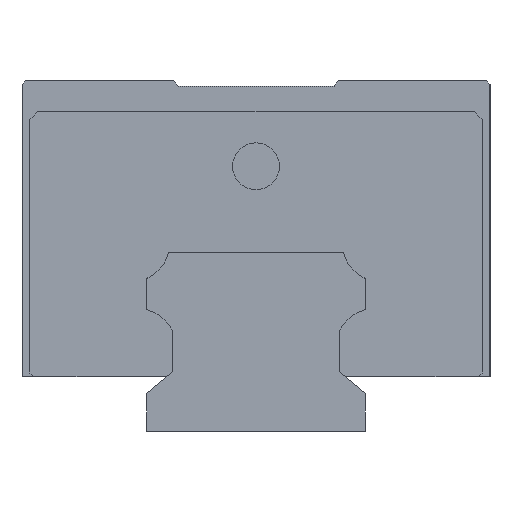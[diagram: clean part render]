
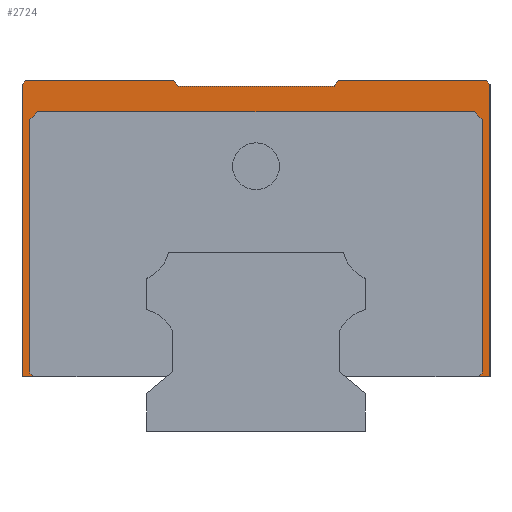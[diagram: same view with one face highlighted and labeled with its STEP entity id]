
A CAD part, left-side view. The second image highlights one B-rep face of the part: STEP entity #2724.
In plain terms, the highlighted planar face has unit normal (-1, 0, 0).
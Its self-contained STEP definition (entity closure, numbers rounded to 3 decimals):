
#24 = DIRECTION ( 'NONE',  ( 0., 1., 0. ) ) ;
#77 = ORIENTED_EDGE ( 'NONE', *, *, #4124, .T. ) ;
#171 = LINE ( 'NONE', #1581, #3320 ) ;
#184 = LINE ( 'NONE', #710, #5637 ) ;
#192 = VERTEX_POINT ( 'NONE', #2617 ) ;
#239 = LINE ( 'NONE', #1643, #3272 ) ;
#273 = CARTESIAN_POINT ( 'NONE',  ( -34.65, -10.629, 45. ) ) ;
#401 = DIRECTION ( 'NONE',  ( 0., 1., 0. ) ) ;
#427 = CARTESIAN_POINT ( 'NONE',  ( -34.65, -29., 7.5 ) ) ;
#487 = VERTEX_POINT ( 'NONE', #1312 ) ;
#493 = LINE ( 'NONE', #1819, #4115 ) ;
#561 = LINE ( 'NONE', #3166, #1451 ) ;
#609 = LINE ( 'NONE', #1134, #2089 ) ;
#622 = ORIENTED_EDGE ( 'NONE', *, *, #2042, .T. ) ;
#704 = VECTOR ( 'NONE', #2951, 1000. ) ;
#710 = CARTESIAN_POINT ( 'NONE',  ( -34.65, 29., 40. ) ) ;
#725 = DIRECTION ( 'NONE',  ( 0., -0.707, -0.707 ) ) ;
#735 = VERTEX_POINT ( 'NONE', #2868 ) ;
#752 = VERTEX_POINT ( 'NONE', #427 ) ;
#793 = AXIS2_PLACEMENT_3D ( 'NONE', #2489, #5661, #2016 ) ;
#826 = DIRECTION ( 'NONE',  ( 0., 1., 0. ) ) ;
#836 = LINE ( 'NONE', #5714, #2618 ) ;
#891 = ORIENTED_EDGE ( 'NONE', *, *, #3181, .F. ) ;
#989 = VERTEX_POINT ( 'NONE', #991 ) ;
#991 = CARTESIAN_POINT ( 'NONE',  ( -34.65, 29.5, 45. ) ) ;
#1006 = CARTESIAN_POINT ( 'NONE',  ( -34.65, 29., 7.5 ) ) ;
#1010 = EDGE_CURVE ( 'NONE', #3080, #487, #609, .T. ) ;
#1021 = VERTEX_POINT ( 'NONE', #4186 ) ;
#1134 = CARTESIAN_POINT ( 'NONE',  ( -34.65, 30., 45. ) ) ;
#1138 = PLANE ( 'NONE',  #793 ) ;
#1185 = EDGE_CURVE ( 'NONE', #752, #5748, #1711, .T. ) ;
#1189 = VERTEX_POINT ( 'NONE', #4741 ) ;
#1192 = EDGE_CURVE ( 'NONE', #1189, #1021, #836, .T. ) ;
#1193 = FACE_OUTER_BOUND ( 'NONE', #5483, .T. ) ;
#1209 = DIRECTION ( 'NONE',  ( 0., 0.643, -0.766 ) ) ;
#1279 = CARTESIAN_POINT ( 'NONE',  ( -34.65, -10., 44.25 ) ) ;
#1301 = ORIENTED_EDGE ( 'NONE', *, *, #3405, .T. ) ;
#1312 = CARTESIAN_POINT ( 'NONE',  ( -34.65, -29.5, 45. ) ) ;
#1318 = ORIENTED_EDGE ( 'NONE', *, *, #1010, .F. ) ;
#1383 = CARTESIAN_POINT ( 'NONE',  ( -34.65, -29., 7.5 ) ) ;
#1385 = CARTESIAN_POINT ( 'NONE',  ( -34.65, -29., 40. ) ) ;
#1420 = EDGE_CURVE ( 'NONE', #5356, #735, #239, .T. ) ;
#1451 = VECTOR ( 'NONE', #3135, 1000. ) ;
#1477 = LINE ( 'NONE', #1006, #2881 ) ;
#1567 = LINE ( 'NONE', #2483, #5317 ) ;
#1581 = CARTESIAN_POINT ( 'NONE',  ( -34.65, -28., 41. ) ) ;
#1631 = DIRECTION ( 'NONE',  ( 0., 0.707, -0.707 ) ) ;
#1643 = CARTESIAN_POINT ( 'NONE',  ( -34.65, 28., 41. ) ) ;
#1657 = ORIENTED_EDGE ( 'NONE', *, *, #2620, .T. ) ;
#1711 = LINE ( 'NONE', #1383, #4971 ) ;
#1713 = EDGE_CURVE ( 'NONE', #4565, #5748, #493, .T. ) ;
#1749 = LINE ( 'NONE', #1279, #1999 ) ;
#1819 = CARTESIAN_POINT ( 'NONE',  ( -34.65, -30., 7. ) ) ;
#1887 = VECTOR ( 'NONE', #826, 1000. ) ;
#1909 = VECTOR ( 'NONE', #2808, 1000. ) ;
#1999 = VECTOR ( 'NONE', #401, 1000. ) ;
#2016 = DIRECTION ( 'NONE',  ( 0., 1., 0. ) ) ;
#2029 = VECTOR ( 'NONE', #1209, 1000. ) ;
#2042 = EDGE_CURVE ( 'NONE', #4378, #3586, #1477, .T. ) ;
#2061 = LINE ( 'NONE', #5149, #5787 ) ;
#2072 = EDGE_CURVE ( 'NONE', #989, #2779, #3641, .T. ) ;
#2089 = VECTOR ( 'NONE', #5100, 1000. ) ;
#2121 = DIRECTION ( 'NONE',  ( 0., 0.707, 0.707 ) ) ;
#2281 = LINE ( 'NONE', #5488, #1909 ) ;
#2359 = ORIENTED_EDGE ( 'NONE', *, *, #3940, .F. ) ;
#2374 = ORIENTED_EDGE ( 'NONE', *, *, #2516, .T. ) ;
#2402 = EDGE_CURVE ( 'NONE', #4415, #4378, #561, .T. ) ;
#2423 = DIRECTION ( 'NONE',  ( 0., 0.707, -0.707 ) ) ;
#2483 = CARTESIAN_POINT ( 'NONE',  ( -34.65, 29.5, 45. ) ) ;
#2489 = CARTESIAN_POINT ( 'NONE',  ( -34.65, -30., 45. ) ) ;
#2516 = EDGE_CURVE ( 'NONE', #735, #3631, #171, .T. ) ;
#2534 = CARTESIAN_POINT ( 'NONE',  ( -34.65, -30., 7. ) ) ;
#2617 = CARTESIAN_POINT ( 'NONE',  ( -34.65, -30., 44.5 ) ) ;
#2618 = VECTOR ( 'NONE', #4357, 1000. ) ;
#2620 = EDGE_CURVE ( 'NONE', #3631, #752, #3834, .T. ) ;
#2724 = ADVANCED_FACE ( 'NONE', ( #1193 ), #1138, .F. ) ;
#2779 = VERTEX_POINT ( 'NONE', #3306 ) ;
#2808 = DIRECTION ( 'NONE',  ( 0., 0.643, 0.766 ) ) ;
#2868 = CARTESIAN_POINT ( 'NONE',  ( -34.65, -28., 41. ) ) ;
#2881 = VECTOR ( 'NONE', #4972, 1000. ) ;
#2951 = DIRECTION ( 'NONE',  ( 0., 0., -1. ) ) ;
#2973 = VECTOR ( 'NONE', #3607, 1000. ) ;
#3049 = LINE ( 'NONE', #4846, #1887 ) ;
#3080 = VERTEX_POINT ( 'NONE', #273 ) ;
#3119 = CARTESIAN_POINT ( 'NONE',  ( -34.65, -10., 44.25 ) ) ;
#3135 = DIRECTION ( 'NONE',  ( 0., 0.707, 0.707 ) ) ;
#3166 = CARTESIAN_POINT ( 'NONE',  ( -34.65, 28.5, 7. ) ) ;
#3181 = EDGE_CURVE ( 'NONE', #192, #4565, #2061, .T. ) ;
#3259 = EDGE_CURVE ( 'NONE', #989, #1021, #1567, .T. ) ;
#3272 = VECTOR ( 'NONE', #5143, 1000. ) ;
#3306 = CARTESIAN_POINT ( 'NONE',  ( -34.65, 10.629, 45. ) ) ;
#3320 = VECTOR ( 'NONE', #725, 1000. ) ;
#3321 = DIRECTION ( 'NONE',  ( 0., -0.707, 0.707 ) ) ;
#3325 = DIRECTION ( 'NONE',  ( 0., 0., -1. ) ) ;
#3405 = EDGE_CURVE ( 'NONE', #3080, #4716, #5232, .T. ) ;
#3519 = ORIENTED_EDGE ( 'NONE', *, *, #1185, .T. ) ;
#3586 = VERTEX_POINT ( 'NONE', #4975 ) ;
#3607 = DIRECTION ( 'NONE',  ( 0., -1., 0. ) ) ;
#3631 = VERTEX_POINT ( 'NONE', #1385 ) ;
#3641 = LINE ( 'NONE', #3702, #2973 ) ;
#3675 = CARTESIAN_POINT ( 'NONE',  ( -34.65, 10., 44.25 ) ) ;
#3702 = CARTESIAN_POINT ( 'NONE',  ( -34.65, 30., 45. ) ) ;
#3788 = EDGE_CURVE ( 'NONE', #3586, #5356, #184, .T. ) ;
#3834 = LINE ( 'NONE', #5522, #704 ) ;
#3864 = ORIENTED_EDGE ( 'NONE', *, *, #3259, .T. ) ;
#3911 = CARTESIAN_POINT ( 'NONE',  ( -34.65, -28.5, 7. ) ) ;
#3940 = EDGE_CURVE ( 'NONE', #4415, #1189, #3049, .T. ) ;
#4115 = VECTOR ( 'NONE', #24, 1000. ) ;
#4124 = EDGE_CURVE ( 'NONE', #4716, #4839, #1749, .T. ) ;
#4186 = CARTESIAN_POINT ( 'NONE',  ( -34.65, 30., 44.5 ) ) ;
#4281 = ORIENTED_EDGE ( 'NONE', *, *, #1420, .T. ) ;
#4357 = DIRECTION ( 'NONE',  ( 0., 0., 1. ) ) ;
#4378 = VERTEX_POINT ( 'NONE', #5285 ) ;
#4384 = ORIENTED_EDGE ( 'NONE', *, *, #1713, .F. ) ;
#4415 = VERTEX_POINT ( 'NONE', #4688 ) ;
#4551 = EDGE_CURVE ( 'NONE', #192, #487, #5685, .T. ) ;
#4565 = VERTEX_POINT ( 'NONE', #2534 ) ;
#4571 = ORIENTED_EDGE ( 'NONE', *, *, #2072, .F. ) ;
#4607 = ORIENTED_EDGE ( 'NONE', *, *, #4551, .T. ) ;
#4688 = CARTESIAN_POINT ( 'NONE',  ( -34.65, 28.5, 7. ) ) ;
#4716 = VERTEX_POINT ( 'NONE', #3119 ) ;
#4741 = CARTESIAN_POINT ( 'NONE',  ( -34.65, 30., 7. ) ) ;
#4839 = VERTEX_POINT ( 'NONE', #3675 ) ;
#4846 = CARTESIAN_POINT ( 'NONE',  ( -34.65, 11.769, 7. ) ) ;
#4971 = VECTOR ( 'NONE', #1631, 1000. ) ;
#4972 = DIRECTION ( 'NONE',  ( 0., 0., 1. ) ) ;
#4975 = CARTESIAN_POINT ( 'NONE',  ( -34.65, 29., 40. ) ) ;
#5033 = ORIENTED_EDGE ( 'NONE', *, *, #2402, .T. ) ;
#5045 = ORIENTED_EDGE ( 'NONE', *, *, #1192, .F. ) ;
#5100 = DIRECTION ( 'NONE',  ( 0., -1., 0. ) ) ;
#5143 = DIRECTION ( 'NONE',  ( 0., -1., 0. ) ) ;
#5149 = CARTESIAN_POINT ( 'NONE',  ( -34.65, -30., 45. ) ) ;
#5192 = CARTESIAN_POINT ( 'NONE',  ( -34.65, 28., 41. ) ) ;
#5232 = LINE ( 'NONE', #5770, #2029 ) ;
#5285 = CARTESIAN_POINT ( 'NONE',  ( -34.65, 29., 7.5 ) ) ;
#5311 = ORIENTED_EDGE ( 'NONE', *, *, #5607, .T. ) ;
#5317 = VECTOR ( 'NONE', #2423, 1000. ) ;
#5356 = VERTEX_POINT ( 'NONE', #5192 ) ;
#5368 = ORIENTED_EDGE ( 'NONE', *, *, #3788, .T. ) ;
#5483 = EDGE_LOOP ( 'NONE', ( #2359, #5033, #622, #5368, #4281, #2374, #1657, #3519, #4384, #891, #4607, #1318, #1301, #77, #5311, #4571, #3864, #5045 ) ) ;
#5488 = CARTESIAN_POINT ( 'NONE',  ( -34.65, 10., 44.25 ) ) ;
#5522 = CARTESIAN_POINT ( 'NONE',  ( -34.65, -29., 40. ) ) ;
#5604 = CARTESIAN_POINT ( 'NONE',  ( -34.65, -30., 44.5 ) ) ;
#5607 = EDGE_CURVE ( 'NONE', #4839, #2779, #2281, .T. ) ;
#5637 = VECTOR ( 'NONE', #3321, 1000. ) ;
#5661 = DIRECTION ( 'NONE',  ( 1., 0., 0. ) ) ;
#5685 = LINE ( 'NONE', #5604, #5756 ) ;
#5714 = CARTESIAN_POINT ( 'NONE',  ( -34.65, 30., 7. ) ) ;
#5748 = VERTEX_POINT ( 'NONE', #3911 ) ;
#5756 = VECTOR ( 'NONE', #2121, 1000. ) ;
#5770 = CARTESIAN_POINT ( 'NONE',  ( -34.65, -10.629, 45. ) ) ;
#5787 = VECTOR ( 'NONE', #3325, 1000. ) ;
